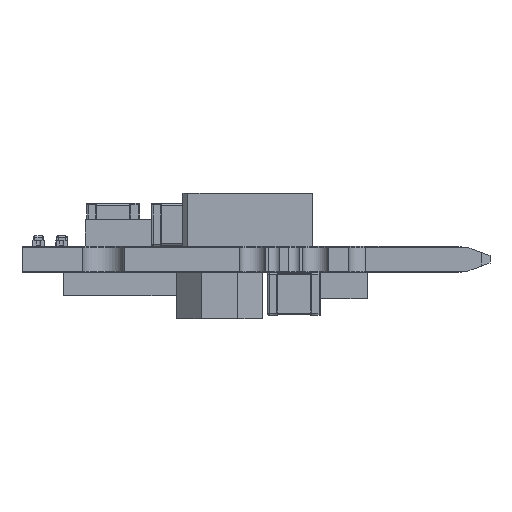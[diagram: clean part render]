
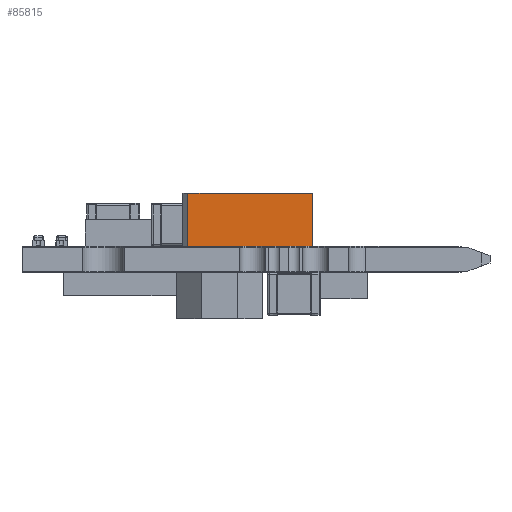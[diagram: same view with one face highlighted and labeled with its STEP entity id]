
A CAD part, left-side view. The second image highlights one B-rep face of the part: STEP entity #85815.
In plain terms, the highlighted planar face has unit normal (-1, 0, 0) as drawn and (0, 0, 1) by its records, which use the part's own axes.
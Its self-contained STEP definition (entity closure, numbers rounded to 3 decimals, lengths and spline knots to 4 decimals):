
#85569=DIRECTION('',(1.,0.,0.));
#85570=VECTOR('',#85569,7.5);
#85571=CARTESIAN_POINT('',(-3.6,0.,3.5));
#85572=LINE('',#85571,#85570);
#85632=DIRECTION('',(0.,1.,0.));
#85633=VECTOR('',#85632,3.2);
#85634=CARTESIAN_POINT('',(3.9,0.,3.5));
#85635=LINE('',#85634,#85633);
#85639=DIRECTION('',(0.,-1.,0.));
#85640=VECTOR('',#85639,3.2);
#85641=CARTESIAN_POINT('',(-3.6,3.2,3.5));
#85642=LINE('',#85641,#85640);
#85681=DIRECTION('',(1.,0.,0.));
#85682=VECTOR('',#85681,7.5);
#85683=CARTESIAN_POINT('',(-3.6,3.2,3.5));
#85684=LINE('',#85683,#85682);
#85692=CARTESIAN_POINT('',(3.9,0.,3.5));
#85693=CARTESIAN_POINT('',(3.9,3.2,3.5));
#85694=VERTEX_POINT('',#85692);
#85695=VERTEX_POINT('',#85693);
#85696=CARTESIAN_POINT('',(-3.6,0.,3.5));
#85698=VERTEX_POINT('',#85696);
#85702=CARTESIAN_POINT('',(-3.6,3.2,3.5));
#85703=VERTEX_POINT('',#85702);
#85803=CARTESIAN_POINT('',(-3.9,0.,3.5));
#85804=DIRECTION('',(0.,0.,1.));
#85805=DIRECTION('',(1.,0.,0.));
#85806=AXIS2_PLACEMENT_3D('',#85803,#85804,#85805);
#85807=PLANE('',#85806);
#85808=ORIENTED_EDGE('',*,*,#85742,.F.);
#85810=ORIENTED_EDGE('',*,*,#85809,.T.);
#85811=ORIENTED_EDGE('',*,*,#85796,.F.);
#85812=ORIENTED_EDGE('',*,*,#85719,.F.);
#85813=EDGE_LOOP('',(#85808,#85810,#85811,#85812));
#85814=FACE_OUTER_BOUND('',#85813,.F.);
#85719=EDGE_CURVE('',#85698,#85694,#85572,.T.);
#85742=EDGE_CURVE('',#85703,#85698,#85642,.T.);
#85796=EDGE_CURVE('',#85694,#85695,#85635,.T.);
#85809=EDGE_CURVE('',#85703,#85695,#85684,.T.);
#85815=ADVANCED_FACE('',(#85814),#85807,.T.);
